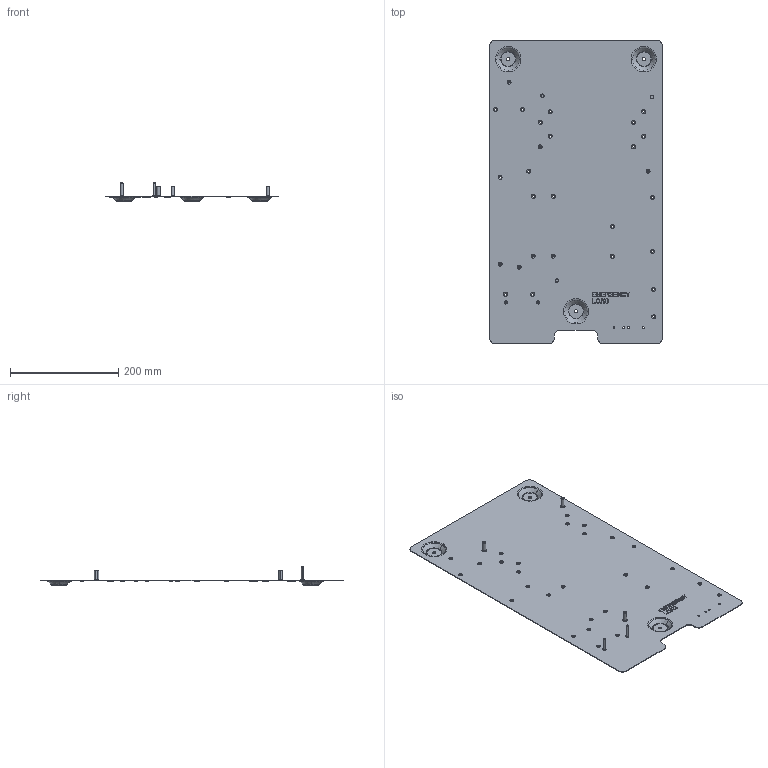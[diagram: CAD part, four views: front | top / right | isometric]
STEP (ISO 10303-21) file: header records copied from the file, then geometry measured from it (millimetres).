
FILE_DESCRIPTION((''),'2;1');
FILE_NAME('GM122197_ASM','2025-08-05T10:13:35',('svp_fishbowl'),(''),'CREO PARAMETRIC BY PTC INC, 2021304','CREO PARAMETRIC BY PTC INC, 2021304','');
FILE_SCHEMA(('AUTOMOTIVE_DESIGN { 1 0 10303 214 1 1 1 1 }'));
Products named in the file (4): GM122197-1; X-6205-46; X-6205-8; GM122197_ASM
Assembly tree (6 placements, depth 2):
  GM122197_ASM
    GM122197-1
    X-6205-46  x2
    X-6205-8  x3
Bounding box: 317.5 x 560 x 33.4 mm (x, y, z)
Volume: 214829.9 mm3; surface area: 359113.6 mm2
Topology: 6 solids, 6 shells, 3622 faces, 7788 edges, 4218 vertices
Faces by surface type: cylinder 1748, torus 666, plane 646, sphere 530, cone 32
Entity records: 119463 total; most frequent: DIRECTION 19266, CARTESIAN_POINT 15553, ORIENTED_EDGE 15484, AXIS2_PLACEMENT_3D 7918, PRESENTATION_STYLE_ASSIGNMENT 7745, STYLED_ITEM 7745, CURVE_STYLE 7742, EDGE_CURVE 7742
